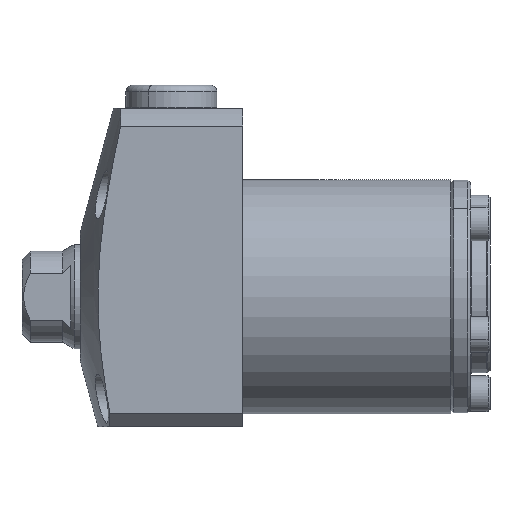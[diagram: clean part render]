
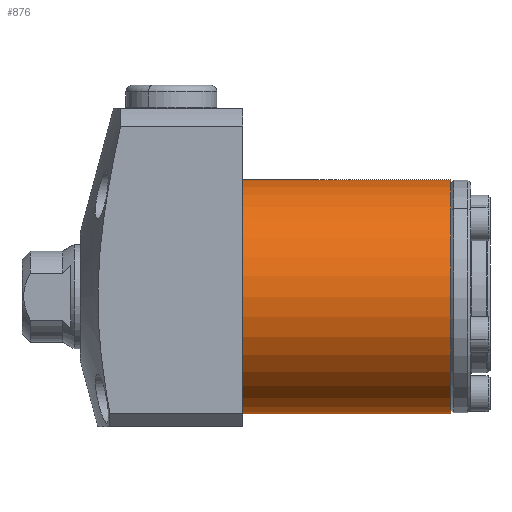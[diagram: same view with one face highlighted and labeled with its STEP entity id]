
A CAD part, left-side view. The second image highlights one B-rep face of the part: STEP entity #876.
In plain terms, the highlighted cylindrical face has radius 18 mm (diameter 36 mm), a partial arc.
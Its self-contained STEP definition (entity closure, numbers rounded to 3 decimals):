
#29 = VECTOR ( 'NONE', #2802, 1000. ) ;
#166 = VERTEX_POINT ( 'NONE', #1772 ) ;
#167 = VERTEX_POINT ( 'NONE', #1773 ) ;
#171 = VERTEX_POINT ( 'NONE', #1777 ) ;
#172 = VERTEX_POINT ( 'NONE', #1778 ) ;
#527 = ORIENTED_EDGE ( 'NONE', *, *, #1232, .F. ) ;
#528 = ORIENTED_EDGE ( 'NONE', *, *, #1289, .T. ) ;
#529 = ORIENTED_EDGE ( 'NONE', *, *, #1234, .T. ) ;
#530 = ORIENTED_EDGE ( 'NONE', *, *, #1286, .F. ) ;
#876 = ADVANCED_FACE ( 'NONE', ( #2744 ), #2746, .T. ) ;
#1208 = EDGE_LOOP ( 'NONE', ( #527, #528, #529, #530 ) ) ;
#1232 = EDGE_CURVE ( 'NONE', #167, #172, #2798, .T. ) ;
#1234 = EDGE_CURVE ( 'NONE', #166, #171, #2803, .T. ) ;
#1286 = EDGE_CURVE ( 'NONE', #172, #171, #3299, .T. ) ;
#1289 = EDGE_CURVE ( 'NONE', #167, #166, #3304, .T. ) ;
#1772 = CARTESIAN_POINT ( 'NONE',  ( 0., -32., 18. ) ) ;
#1773 = CARTESIAN_POINT ( 'NONE',  ( 0., -32., -18. ) ) ;
#1777 = CARTESIAN_POINT ( 'NONE',  ( 0., 0., 18. ) ) ;
#1778 = CARTESIAN_POINT ( 'NONE',  ( 0., 0., -18. ) ) ;
#1876 = VECTOR ( 'NONE', #2808, 1000. ) ;
#2643 = AXIS2_PLACEMENT_3D ( 'NONE', #2745, #2739, #2747 ) ;
#2739 = DIRECTION ( 'NONE',  ( 0., 1., 0. ) ) ;
#2744 = FACE_OUTER_BOUND ( 'NONE', #1208, .T. ) ;
#2745 = CARTESIAN_POINT ( 'NONE',  ( 0., -32., 0. ) ) ;
#2746 = CYLINDRICAL_SURFACE ( 'NONE', #2643, 18. ) ;
#2747 = DIRECTION ( 'NONE',  ( 0., 0., 1. ) ) ;
#2795 = CARTESIAN_POINT ( 'NONE',  ( 0., -32., -18. ) ) ;
#2797 = CARTESIAN_POINT ( 'NONE',  ( 0., -32., 18. ) ) ;
#2798 = LINE ( 'NONE', #2795, #29 ) ;
#2802 = DIRECTION ( 'NONE',  ( 0., 1., 0. ) ) ;
#2803 = LINE ( 'NONE', #2797, #1876 ) ;
#2808 = DIRECTION ( 'NONE',  ( 0., 1., 0. ) ) ;
#3143 = CARTESIAN_POINT ( 'NONE',  ( 0., 0., 0. ) ) ;
#3144 = DIRECTION ( 'NONE',  ( 0., 1., 0. ) ) ;
#3145 = DIRECTION ( 'NONE',  ( 0., 0., 1. ) ) ;
#3150 = CARTESIAN_POINT ( 'NONE',  ( 0., -32., 0. ) ) ;
#3151 = DIRECTION ( 'NONE',  ( 0., 1., 0. ) ) ;
#3152 = DIRECTION ( 'NONE',  ( 0., 0., 1. ) ) ;
#3299 = CIRCLE ( 'NONE', #3302, 18. ) ;
#3302 = AXIS2_PLACEMENT_3D ( 'NONE', #3143, #3144, #3145 ) ;
#3304 = CIRCLE ( 'NONE', #3306, 18. ) ;
#3306 = AXIS2_PLACEMENT_3D ( 'NONE', #3150, #3151, #3152 ) ;
